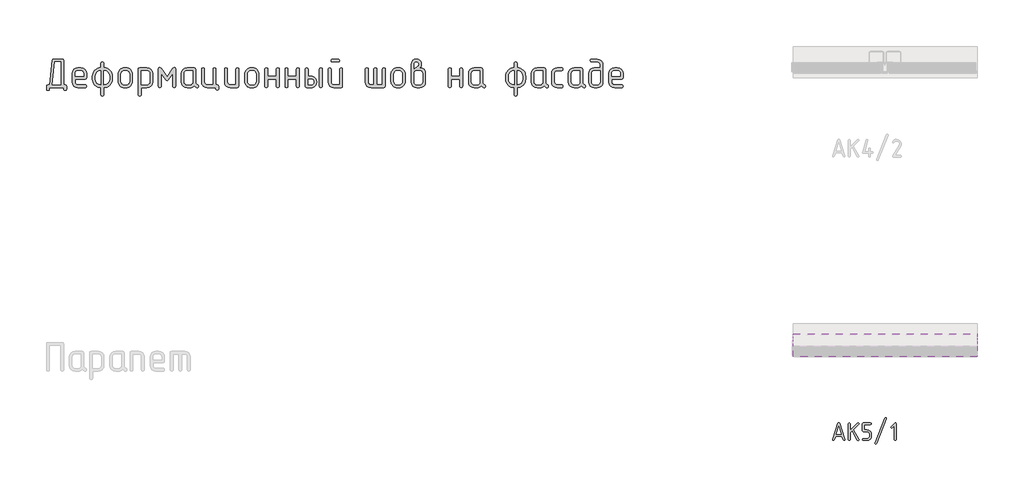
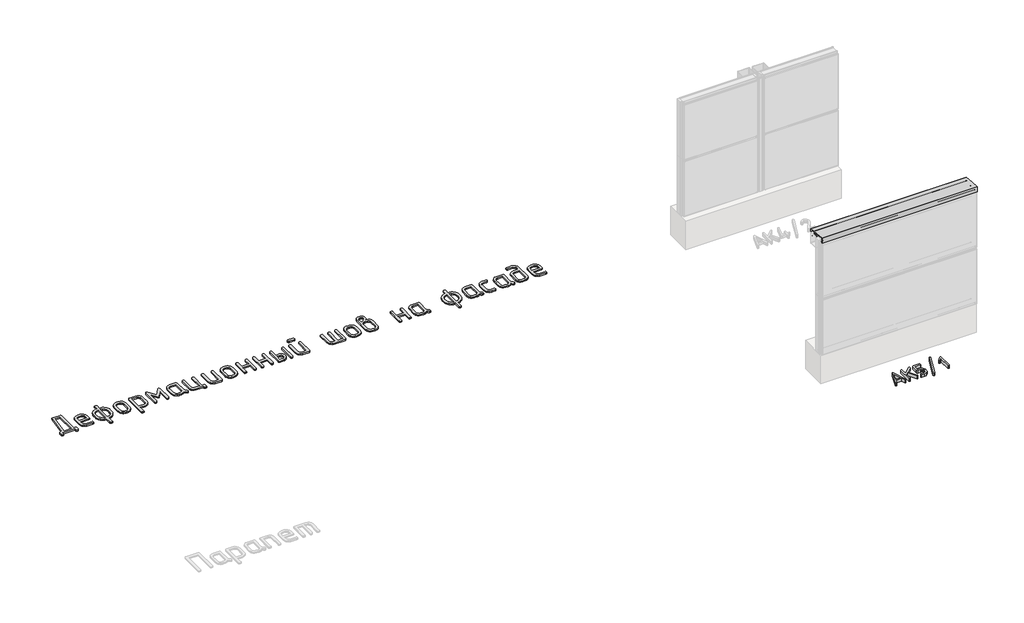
# One storey, part 11 of 37: 3 proxies.
"""IFC4 building model written with IfcOpenShell, lengths in millimetres."""

from ifc_helpers import new_model, si_unit, origin, origin_with_axes, place, context, project, spatial, polyline, outline, extrude, transform, mapped, element, save
from components import generic_models_6f136ce7

model = new_model("IFC4")

# Units and contexts
model_context = context("Model", 3, world=origin())
ifc_project = project(units=[si_unit("LENGTHUNIT", "METRE", prefix="MILLI")], contexts=[model_context])

# Site, building, storey
site = spatial("IfcSite", under=ifc_project)
building = spatial("IfcBuilding", under=site)
storey = spatial("IfcBuildingStorey", under=building, Name="Этаж 01", Elevation=0.0)

# Proxies
placement = place(None, origin())
element("IfcBuildingElementProxy", 1, Name="250 мм ГОСТ 2.304", ObjectType="250 мм ГОСТ 2.304", at=placement, inside=storey, context=model_context, shape_type="SweptSolid", body=[
    extrude(outline(polyline([(46420.8154984, -30426.1300608), (46402.9821438, -30480.0681368), (46398.7740979, -30486.3567408), (46391.2809603, -30488.4529422), (46382.5207159, -30485.1678505), (46378.5160328, -30476.8143318), (46379.6423499, -30472.0587706), (46454.3547197, -30247.9216611), (46459.2667139, -30239.9905113), (46465.9933301, -30237.3467947), (46473.0953853, -30239.9905113), (46477.6319404, -30247.9216611), (46552.7197493, -30472.0587706), (46553.4706274, -30476.8143318), (46549.4659443, -30485.1678505), (46540.7056999, -30488.4529422), (46535.2618338, -30487.7646372), (46529.0670895, -30480.0681368), (46511.1711617, -30426.1300608), (46420.8154984, -30426.1300608)]), holes=[polyline([(46502.7863564, -30400.9756448), (46465.9933301, -30290.9720048), (46429.2003037, -30400.9756448), (46502.7863564, -30400.9756448)])]), origin_with_axes(), (0.0, 0.0, 1.0), 50.0),
    extrude(outline(polyline([(46626.4935215, -30347.4130078), (46731.0532954, -30243.5415389), (46739.8135397, -30239.5368558), (46748.7615036, -30243.385106), (46752.5784672, -30252.3017833), (46748.5737841, -30261.0620276), (46674.6122924, -30335.0235194), (46750.7638452, -30470.2441485), (46752.5784672, -30476.8143318), (46748.5737841, -30485.7310091), (46739.4381007, -30489.2038202), (46733.3528595, -30487.4674147), (46728.8632343, -30482.2581979), (46656.0280597, -30352.1685691), (46626.4935215, -30381.3276682), (46626.4935215, -30476.4388927), (46623.0207104, -30485.7310091), (46614.1040331, -30488.8283812), (46605.1560692, -30485.5432896), (46601.3391055, -30476.4388927), (46601.3391055, -30252.3017833), (46605.1560692, -30243.1973865), (46614.1040331, -30239.9122948), (46622.6765579, -30243.1973865), (46626.4935215, -30252.3017833), (46626.4935215, -30347.4130078)])), origin_with_axes(), (0.0, 0.0, 1.0), 50.0),
    extrude(outline(polyline([(46826.7276785, -30264.6912717), (46826.7276785, -30339.4036416), (46863.8961439, -30339.4036416), (46887.8382046, -30343.9636616), (46907.978945, -30357.6437218), (46921.6590052, -30377.7844622), (46926.2190252, -30401.7265229), (46926.2190252, -30426.5054998), (46921.6590052, -30450.4866688), (46907.978945, -30470.6195875), (46887.8382046, -30484.2761828), (46863.8961439, -30488.8283812), (46814.33819, -30488.8283812), (46805.0460737, -30485.1991371), (46801.5732625, -30476.4388927), (46804.8583542, -30467.6786484), (46814.33819, -30464.0494043), (46863.8961439, -30464.0494043), (46878.4756934, -30461.1397517), (46890.5210294, -30452.9426659), (46898.5303957, -30440.8973299), (46901.4400483, -30426.5054998), (46901.4400483, -30401.7265229), (46898.5303957, -30387.1469734), (46890.5210294, -30375.1016374), (46878.4756934, -30367.0922711), (46863.8961439, -30364.1826185), (46814.33819, -30364.1826185), (46804.7644944, -30361.0852464), (46801.5732625, -30351.79313), (46801.5732625, -30252.3017833), (46804.7644944, -30242.7280877), (46814.33819, -30239.5368558), (46913.8295368, -30239.5368558), (46923.1216531, -30243.1973865), (46926.2190252, -30252.3017833), (46922.9339336, -30260.8743081), (46913.8295368, -30264.6912717), (46826.7276785, -30264.6912717)])), origin_with_axes(), (0.0, 0.0, 1.0), 50.0),
    extrude(outline(polyline([(47139.2181097, -30181.9695356), (47002.1828585, -30530.7524078), (46997.4585839, -30536.571713), (46990.9196872, -30538.7617741), (46981.7840038, -30535.2889629), (46977.7793206, -30526.3722856), (46978.5301987, -30521.6167244), (47115.5654499, -30172.8964254), (47120.2897245, -30167.014547), (47126.8286212, -30164.824486), (47135.9643046, -30168.4850166), (47139.9689878, -30177.2139744), (47139.2181097, -30181.9695356)])), origin_with_axes(), (0.0, 0.0, 1.0), 50.0),
    extrude(outline(polyline([(47276.7539463, -30476.4388927), (47273.2811351, -30485.7310091), (47264.3644578, -30488.8283812), (47255.791933, -30485.5432896), (47251.9749693, -30476.4388927), (47251.9749693, -30282.2117605), (47223.1913093, -30310.6199815), (47214.806504, -30314.6246646), (47205.8585401, -30310.807701), (47202.0415764, -30301.8597371), (47206.0462596, -30293.1620659), (47255.6042134, -30243.5415389), (47266.5545189, -30238.0976728), (47273.8442937, -30241.7582035), (47276.7539463, -30252.3017833), (47276.7539463, -30476.4388927)])), origin_with_axes(), (0.0, 0.0, 1.0), 50.0),
])
element("IfcBuildingElementProxy", 2, Name="400 мм ГОСТ 2.304", ObjectType="400 мм ГОСТ 2.304", at=placement, inside=storey, context=model_context, shape_type="SweptSolid", body=[
    extrude(outline(polyline([(35330.8596141, -25470.0888241), (35369.1834306, -25125.5789489), (35375.048289, -25111.8521465), (35389.2048439, -25107.2765458), (35509.9400336, -25107.2765458), (35518.6994019, -25108.5658034), (35524.9560936, -25112.4335765), (35529.9614469, -25127.9046686), (35529.9614469, -25470.0888241), (35550.5895698, -25470.0888241), (35565.6056298, -25475.0941775), (35570.6109831, -25490.1102375), (35570.6109831, -25530.1530642), (35569.2079674, -25538.9124325), (35564.9989203, -25545.1691242), (35550.5895698, -25550.1744776), (35536.1296601, -25545.1691242), (35531.5035002, -25538.9124325), (35529.9614469, -25530.1530642), (35529.9614469, -25510.1316508), (35329.1406039, -25510.1316508), (35329.1406039, -25530.1530642), (35327.7375882, -25538.9124325), (35323.528541, -25545.1691242), (35309.1191905, -25550.1744776), (35294.6592809, -25545.1691242), (35290.033121, -25538.9124325), (35288.4910677, -25530.1530642), (35288.4910677, -25490.1102375), (35289.7803253, -25481.3508691), (35293.6480984, -25475.0941775), (35309.1191905, -25470.0888241), (35330.8596141, -25470.0888241)]), holes=[polyline([(35489.9186202, -25470.0888241), (35489.9186202, -25147.926082), (35407.4061288, -25147.926082), (35370.9024408, -25470.0888241), (35489.9186202, -25470.0888241)])]), origin_with_axes(), (0.0, 0.0, 1.0), 20.0),
    extrude(outline(polyline([(35691.5484092, -25389.3964612), (35691.5484092, -25429.4392879), (35694.4176396, -25445.201095), (35703.0253305, -25458.3085481), (35715.9052675, -25467.1437551), (35731.591236, -25470.0888241), (35832.3050122, -25470.0888241), (35841.0643806, -25471.4918398), (35847.3210722, -25475.700887), (35852.3264256, -25490.1102375), (35847.0177175, -25503.9634376), (35840.6851871, -25508.5895975), (35832.3050122, -25510.1316508), (35731.591236, -25510.1316508), (35700.5226539, -25504.3931902), (35674.4594251, -25487.1778083), (35664.1516836, -25474.7339437), (35656.7890111, -25460.9629021), (35650.898873, -25429.4392879), (35650.898873, -25308.7040983), (35656.7890111, -25277.7871936), (35664.1516836, -25264.3195068), (35674.4594251, -25252.178997), (35700.5226539, -25234.5085829), (35731.591236, -25228.6184449), (35771.6340627, -25228.6184449), (35803.0059995, -25234.3569055), (35828.7658735, -25251.5722875), (35846.4362876, -25277.6355162), (35852.3264256, -25308.7040983), (35852.3264256, -25369.3750479), (35847.3210722, -25384.3911079), (35832.3050122, -25389.3964612), (35691.5484092, -25389.3964612)]), holes=[polyline([(35691.5484092, -25349.3536345), (35812.2835989, -25349.3536345), (35812.2835989, -25308.7040983), (35809.3385299, -25293.3973233), (35800.5033228, -25280.4415476), (35787.3958698, -25271.6063406), (35771.6340627, -25268.6612716), (35731.591236, -25268.6612716), (35715.9052675, -25271.6063406), (35703.0253305, -25280.4415476), (35694.4176396, -25293.3973233), (35691.5484092, -25308.7040983), (35691.5484092, -25349.3536345)])]), origin_with_axes(), (0.0, 0.0, 1.0), 20.0),
    extrude(outline(polyline([(36097.0325888, -25228.6184449), (36121.3641675, -25230.7924872), (36143.6986608, -25237.3146143), (36164.0360687, -25248.1848261), (36182.3763912, -25263.4031226), (36197.8601231, -25281.7813644), (36208.9199316, -25302.2325304), (36215.5558167, -25324.7566204), (36217.7677784, -25349.3536345), (36217.7677784, -25389.3964612), (36215.5589767, -25413.5036838), (36208.9325714, -25435.7718183), (36197.8885626, -25456.2008646), (36182.4269503, -25474.7908227), (36163.8369922, -25490.252435), (36143.4079459, -25501.2964438), (36121.1398114, -25507.9228491), (36097.0325888, -25510.1316508), (36097.0325888, -25610.8454271), (36095.6295731, -25619.6047955), (36091.420526, -25625.8614871), (36077.0111754, -25630.8668405), (36062.5512658, -25625.5581324), (36057.9251059, -25619.225602), (36056.3830526, -25610.8454271), (36056.3830526, -25510.1316508), (36032.27583, -25507.9228491), (36010.0076955, -25501.2964438), (35989.5786492, -25490.252435), (35970.9886911, -25474.7908227), (35955.5270788, -25456.2008646), (35944.48307, -25435.7718183), (35937.8566647, -25413.5036838), (35935.647863, -25389.3964612), (35935.647863, -25349.3536345), (35937.8535048, -25325.0220558), (35944.4704302, -25302.6875625), (35955.4986393, -25282.3501546), (35970.938132, -25264.0098321), (35989.5502097, -25248.5261002), (36009.9950557, -25237.4662917), (36032.27267, -25230.8304066), (36056.3830526, -25228.6184449), (36056.3830526, -25167.9474953), (36057.8492672, -25159.5673204), (36062.2479111, -25153.2347901), (36077.0111754, -25147.926082), (36090.8643756, -25153.2347901), (36095.4905355, -25159.5673204), (36097.0325888, -25167.9474953), (36097.0325888, -25228.6184449)]), holes=[polyline([(36097.0325888, -25268.6612716), (36097.0325888, -25470.0888241), (36127.9494935, -25464.1986861), (36141.4171803, -25456.8360136), (36153.5576901, -25446.5282721), (36171.2281042, -25420.4650433), (36177.1182422, -25389.3964612), (36177.1182422, -25349.3536345), (36171.2281042, -25318.2850524), (36153.5576901, -25292.2218237), (36127.6461388, -25274.5514096), (36097.0325888, -25268.6612716)]), polyline([(36056.3830526, -25470.0888241), (36056.3830526, -25268.6612716), (36025.7695026, -25274.5514096), (35999.8579513, -25292.2218237), (35982.1875372, -25318.2850524), (35976.2973992, -25349.3536345), (35976.2973992, -25389.3964612), (35982.1875372, -25420.4650433), (35999.8579513, -25446.5282721), (36025.7695026, -25464.1986861), (36056.3830526, -25470.0888241)])]), origin_with_axes(), (0.0, 0.0, 1.0), 20.0),
    extrude(outline(polyline([(36499.4832209, -25421.754301), (36497.8653289, -25439.6143118), (36493.0116529, -25456.0839466), (36484.922193, -25471.1632055), (36473.5969491, -25484.8520885), (36460.1735015, -25495.911897), (36445.2838393, -25503.8117603), (36428.9279625, -25508.5516782), (36411.105871, -25510.1316508), (36386.9386095, -25510.1316508), (36369.1228379, -25508.5516782), (36352.6848025, -25503.8117603), (36337.6245033, -25495.911897), (36323.9419402, -25484.8520885), (36312.6166962, -25471.1632055), (36304.5272363, -25456.0839466), (36299.6735603, -25439.6143118), (36298.0556683, -25421.754301), (36298.0556683, -25316.9957947), (36299.6735603, -25299.4012194), (36304.5272363, -25283.1211812), (36312.6166962, -25268.1556803), (36323.9419402, -25254.5047167), (36338.041616, -25243.1794728), (36353.2409529, -25235.0900128), (36369.5399507, -25230.2363369), (36386.9386095, -25228.6184449), (36411.105871, -25228.6184449), (36428.6972865, -25230.2394968), (36444.9678448, -25235.1026526), (36459.9175459, -25243.2079123), (36473.54639, -25254.5552758), (36484.8937535, -25268.1841199), (36492.9990132, -25283.133821), (36497.862169, -25299.4043793), (36499.4832209, -25316.9957947), (36499.4832209, -25421.754301)]), holes=[polyline([(36459.4403942, -25421.754301), (36459.4403942, -25316.9957947), (36455.9012555, -25298.440596), (36445.2838393, -25282.8178265), (36429.6610698, -25272.2004103), (36411.105871, -25268.6612716), (36386.9386095, -25268.6612716), (36368.3960505, -25272.2004103), (36352.8112003, -25282.8178265), (36342.2317035, -25298.440596), (36338.7052046, -25316.9957947), (36338.7052046, -25421.754301), (36342.2317035, -25440.3094997), (36352.8112003, -25455.9322692), (36368.3960505, -25466.5496854), (36386.9386095, -25470.0888241), (36411.105871, -25470.0888241), (36429.6610698, -25466.5496854), (36445.2838393, -25455.9322692), (36455.9012555, -25440.3094997), (36459.4403942, -25421.754301)])]), origin_with_axes(), (0.0, 0.0, 1.0), 20.0),
    extrude(outline(polyline([(36623.4541945, -25510.1316508), (36623.4541945, -25610.8454271), (36622.0511788, -25619.6047955), (36617.8421317, -25625.8614871), (36603.4327811, -25630.8668405), (36588.9728715, -25625.5581324), (36584.3467116, -25619.225602), (36582.8046583, -25610.8454271), (36582.8046583, -25248.6398582), (36584.093916, -25239.8804899), (36587.961689, -25233.6237982), (36603.4327811, -25228.6184449), (36703.5398479, -25228.6184449), (36734.9117847, -25234.3569055), (36760.6716587, -25251.5722875), (36778.3420728, -25277.6355162), (36784.2322108, -25308.7040983), (36784.2322108, -25429.4392879), (36778.3420728, -25460.9629021), (36770.9794003, -25474.7339437), (36760.6716587, -25487.1778083), (36734.9117847, -25504.3931902), (36703.5398479, -25510.1316508), (36623.4541945, -25510.1316508)]), holes=[polyline([(36623.4541945, -25470.0888241), (36703.5398479, -25470.0888241), (36719.301655, -25467.1437551), (36732.4091081, -25458.3085481), (36741.2443151, -25445.201095), (36744.1893841, -25429.4392879), (36744.1893841, -25308.7040983), (36741.2443151, -25293.3973233), (36732.4091081, -25280.4415476), (36719.301655, -25271.6063406), (36703.5398479, -25268.6612716), (36623.4541945, -25268.6612716), (36623.4541945, -25470.0888241)])]), origin_with_axes(), (0.0, 0.0, 1.0), 20.0),
    extrude(outline(polyline([(37109.0240275, -25490.1102375), (37107.5451731, -25498.4904124), (37103.1086099, -25504.8229428), (37089.0026141, -25510.1316508), (37074.5427045, -25505.1262975), (37070.3715767, -25498.8696058), (37068.9812008, -25490.1102375), (37068.9812008, -25311.029818), (37004.7711125, -25401.2272964), (36996.5046956, -25409.1145198), (36988.2888378, -25411.7435943), (36979.7696253, -25409.1145198), (36971.8065632, -25401.2272964), (36908.2031844, -25311.029818), (36908.2031844, -25490.1102375), (36906.6611311, -25498.4904124), (36902.0349712, -25504.8229428), (36888.1817711, -25510.1316508), (36873.1657111, -25505.1262975), (36868.9566639, -25498.8696058), (36867.5536482, -25490.1102375), (36867.5536482, -25248.6398582), (36872.5590016, -25231.2475194), (36878.2342633, -25226.6213595), (36885.2493418, -25225.0793062), (36895.6645215, -25228.037015), (36904.6640457, -25236.9101413), (36988.2888378, -25354.6117835), (37072.5203395, -25236.9101413), (37081.6209819, -25228.037015), (37091.3283339, -25225.0793062), (37098.3434124, -25226.6213595), (37104.0186741, -25231.2475194), (37109.0240275, -25248.6398582), (37109.0240275, -25490.1102375)])), origin_with_axes(), (0.0, 0.0, 1.0), 20.0),
    extrude(outline(polyline([(37371.9314756, -25483.6386695), (37359.9995222, -25494.2813653), (37345.4384943, -25502.7500186), (37329.107897, -25508.2862428), (37311.8672355, -25510.1316508), (37271.8244088, -25510.1316508), (37240.7558267, -25504.3931902), (37214.692598, -25487.1778083), (37204.3848564, -25474.7339437), (37197.0221839, -25460.9629021), (37191.1320459, -25429.4392879), (37191.1320459, -25308.7040983), (37197.0221839, -25278.0905483), (37214.692598, -25252.178997), (37240.7558267, -25234.5085829), (37271.8244088, -25228.6184449), (37372.5381851, -25228.6184449), (37387.5542451, -25233.6237982), (37392.5595984, -25248.6398582), (37392.5595984, -25429.4392879), (37394.4682054, -25442.4709023), (37400.1940262, -25454.4660546), (37409.0292333, -25464.5399602), (37420.2659987, -25471.8078344), (37429.9733506, -25478.9113914), (37433.2091346, -25489.503528), (37427.5970718, -25504.2667924), (37421.1887027, -25509.1204684), (37413.1877213, -25510.7383603), (37404.8960248, -25508.4126406), (37386.3408261, -25497.7699449), (37371.9314756, -25483.6386695)]), holes=[polyline([(37352.5167717, -25429.4392879), (37352.5167717, -25268.6612716), (37271.8244088, -25268.6612716), (37256.1384404, -25271.6063406), (37243.2585034, -25280.4415476), (37234.6508124, -25293.3973233), (37231.7815821, -25308.7040983), (37231.7815821, -25429.4392879), (37234.6508124, -25445.201095), (37243.2585034, -25458.3085481), (37256.1384404, -25467.1437551), (37271.8244088, -25470.0888241), (37311.8672355, -25470.0888241), (37327.6290426, -25467.1437551), (37340.7364957, -25458.3085481), (37349.5717027, -25445.201095), (37352.5167717, -25429.4392879)])]), origin_with_axes(), (0.0, 0.0, 1.0), 20.0),
    extrude(outline(polyline([(37637.2657616, -25470.0888241), (37637.2657616, -25248.6398582), (37638.7319763, -25240.2596833), (37643.1306201, -25233.927153), (37657.287175, -25228.6184449), (37671.3931708, -25233.6237982), (37675.829734, -25239.8804899), (37677.3085884, -25248.6398582), (37677.3085884, -25470.0888241), (37697.3300017, -25470.0888241), (37712.3460617, -25475.0941775), (37717.3514151, -25490.1102375), (37717.3514151, -25526.007216), (37715.9483994, -25534.842423), (37711.7393522, -25541.3266307), (37697.3300017, -25546.6353388), (37683.4768016, -25541.3266307), (37678.8506417, -25534.842423), (37677.3085884, -25526.007216), (37677.3085884, -25510.1316508), (37556.5733987, -25510.1316508), (37525.5048166, -25504.3931902), (37499.4415879, -25487.1778083), (37489.1338464, -25474.7339437), (37481.7711738, -25460.9629021), (37475.8810358, -25429.4392879), (37475.8810358, -25248.6398582), (37477.3598902, -25240.2596833), (37481.7964534, -25233.927153), (37496.5091587, -25228.6184449), (37510.3623588, -25233.6237982), (37514.9885187, -25239.8804899), (37516.530572, -25248.6398582), (37516.530572, -25429.4392879), (37519.3998023, -25445.201095), (37528.0074933, -25458.3085481), (37540.8874303, -25467.1437551), (37556.5733987, -25470.0888241), (37637.2657616, -25470.0888241)])), origin_with_axes(), (0.0, 0.0, 1.0), 20.0),
    extrude(outline(polyline([(38000.886986, -25490.1102375), (37995.8816327, -25505.1262975), (37980.8655727, -25510.1316508), (37880.1517964, -25510.1316508), (37849.0832143, -25504.3931902), (37823.0199856, -25487.1778083), (37812.712244, -25474.7339437), (37805.3495715, -25460.9629021), (37799.4594335, -25429.4392879), (37799.4594335, -25248.6398582), (37800.9382879, -25240.2596833), (37805.3748511, -25233.927153), (37820.0875563, -25228.6184449), (37833.9407565, -25233.6237982), (37838.5669164, -25239.8804899), (37840.1089697, -25248.6398582), (37840.1089697, -25429.4392879), (37842.9782, -25445.201095), (37851.585891, -25458.3085481), (37864.465828, -25467.1437551), (37880.1517964, -25470.0888241), (37960.8441593, -25470.0888241), (37960.8441593, -25248.6398582), (37962.3103739, -25240.2596833), (37966.7090178, -25233.927153), (37980.8655727, -25228.6184449), (37994.9715684, -25233.6237982), (37999.4081316, -25239.8804899), (38000.886986, -25248.6398582), (38000.886986, -25490.1102375)])), origin_with_axes(), (0.0, 0.0, 1.0), 20.0),
    extrude(outline(polyline([(38285.635976, -25421.754301), (38284.018084, -25439.6143118), (38279.164408, -25456.0839466), (38271.0749481, -25471.1632055), (38259.7497041, -25484.8520885), (38246.3262565, -25495.911897), (38231.4365943, -25503.8117603), (38215.0807175, -25508.5516782), (38197.2586261, -25510.1316508), (38173.0913645, -25510.1316508), (38155.275593, -25508.5516782), (38138.8375576, -25503.8117603), (38123.7772583, -25495.911897), (38110.0946952, -25484.8520885), (38098.7694513, -25471.1632055), (38090.6799914, -25456.0839466), (38085.8263154, -25439.6143118), (38084.2084234, -25421.754301), (38084.2084234, -25316.9957947), (38085.8263154, -25299.4012194), (38090.6799914, -25283.1211812), (38098.7694513, -25268.1556803), (38110.0946952, -25254.5047167), (38124.1943711, -25243.1794728), (38139.3937079, -25235.0900128), (38155.6927058, -25230.2363369), (38173.0913645, -25228.6184449), (38197.2586261, -25228.6184449), (38214.8500415, -25230.2394968), (38231.1205998, -25235.1026526), (38246.070301, -25243.2079123), (38259.699145, -25254.5552758), (38271.0465085, -25268.1841199), (38279.1517682, -25283.133821), (38284.014924, -25299.4043793), (38285.635976, -25316.9957947), (38285.635976, -25421.754301)]), holes=[polyline([(38245.5931492, -25421.754301), (38245.5931492, -25316.9957947), (38242.0540105, -25298.440596), (38231.4365943, -25282.8178265), (38215.8138248, -25272.2004103), (38197.2586261, -25268.6612716), (38173.0913645, -25268.6612716), (38154.5488056, -25272.2004103), (38138.9639554, -25282.8178265), (38128.3844586, -25298.440596), (38124.8579596, -25316.9957947), (38124.8579596, -25421.754301), (38128.3844586, -25440.3094997), (38138.9639554, -25455.9322692), (38154.5488056, -25466.5496854), (38173.0913645, -25470.0888241), (38197.2586261, -25470.0888241), (38215.8138248, -25466.5496854), (38231.4365943, -25455.9322692), (38242.0540105, -25440.3094997), (38245.5931492, -25421.754301)])]), origin_with_axes(), (0.0, 0.0, 1.0), 20.0),
    extrude(outline(polyline([(38530.3421392, -25349.3536345), (38530.3421392, -25248.6398582), (38531.8083538, -25240.2596833), (38536.2069976, -25233.927153), (38550.3635525, -25228.6184449), (38564.4695483, -25233.6237982), (38568.9061115, -25239.8804899), (38570.3849659, -25248.6398582), (38570.3849659, -25490.1102375), (38568.9819502, -25498.8696058), (38564.7729031, -25505.1262975), (38550.3635525, -25510.1316508), (38536.2069976, -25504.8229428), (38531.8083538, -25498.4904124), (38530.3421392, -25490.1102375), (38530.3421392, -25389.3964612), (38409.6069496, -25389.3964612), (38409.6069496, -25490.1102375), (38408.2039338, -25498.8696058), (38403.9948867, -25505.1262975), (38389.5855362, -25510.1316508), (38375.1256266, -25504.8229428), (38370.4994666, -25498.4904124), (38368.9574133, -25490.1102375), (38368.9574133, -25248.6398582), (38370.4362677, -25240.2596833), (38374.8728309, -25233.927153), (38389.5855362, -25228.6184449), (38403.4387363, -25233.6237982), (38408.0648963, -25239.8804899), (38409.6069496, -25248.6398582), (38409.6069496, -25349.3536345), (38530.3421392, -25349.3536345)])), origin_with_axes(), (0.0, 0.0, 1.0), 20.0),
    extrude(outline(polyline([(38815.0911291, -25349.3536345), (38815.0911291, -25248.6398582), (38816.5573437, -25240.2596833), (38820.9559876, -25233.927153), (38835.1125425, -25228.6184449), (38849.2185382, -25233.6237982), (38853.6551014, -25239.8804899), (38855.1339558, -25248.6398582), (38855.1339558, -25490.1102375), (38853.7309401, -25498.8696058), (38849.521893, -25505.1262975), (38835.1125425, -25510.1316508), (38820.9559876, -25504.8229428), (38816.5573437, -25498.4904124), (38815.0911291, -25490.1102375), (38815.0911291, -25389.3964612), (38694.3559395, -25389.3964612), (38694.3559395, -25490.1102375), (38692.9529238, -25498.8696058), (38688.7438767, -25505.1262975), (38674.3345261, -25510.1316508), (38659.8746165, -25504.8229428), (38655.2484566, -25498.4904124), (38653.7064033, -25490.1102375), (38653.7064033, -25248.6398582), (38655.1852577, -25240.2596833), (38659.6218209, -25233.927153), (38674.3345261, -25228.6184449), (38688.1877263, -25233.6237982), (38692.8138862, -25239.8804899), (38694.3559395, -25248.6398582), (38694.3559395, -25349.3536345), (38815.0911291, -25349.3536345)])), origin_with_axes(), (0.0, 0.0, 1.0), 20.0),
    extrude(outline(polyline([(39179.9257725, -25490.1102375), (39178.5227568, -25498.8696058), (39174.3137096, -25505.1262975), (39159.9043591, -25510.1316508), (39146.051159, -25504.8229428), (39141.4249991, -25498.4904124), (39139.8829458, -25490.1102375), (39139.8829458, -25248.6398582), (39141.3491604, -25240.2596833), (39145.7478042, -25233.927153), (39159.9043591, -25228.6184449), (39174.0103549, -25233.6237982), (39178.4469181, -25239.8804899), (39179.9257725, -25248.6398582), (39179.9257725, -25490.1102375)])), origin_with_axes(), (0.0, 0.0, 1.0), 20.0),
    extrude(outline(polyline([(38979.1049294, -25349.3536345), (39019.1477561, -25349.3536345), (39037.2732023, -25350.9020077), (39053.4268426, -25355.5471273), (39067.6086771, -25363.2889932), (39079.8187057, -25374.1276056), (39094.8347657, -25398.825738), (39099.8401191, -25429.4392879), (39094.8347657, -25460.0781175), (39079.8187057, -25484.8520885), (39067.8361932, -25495.911897), (39053.7301974, -25503.8117603), (39037.5007184, -25508.5516782), (39019.1477561, -25510.1316508), (38959.0835161, -25510.1316508), (38943.6124239, -25505.1262975), (38939.7446509, -25498.8696058), (38938.4553932, -25490.1102375), (38938.4553932, -25248.6398582), (38939.9342476, -25240.2596833), (38944.3708108, -25233.927153), (38959.0835161, -25228.6184449), (38972.9367162, -25233.6237982), (38977.5628761, -25239.8804899), (38979.1049294, -25248.6398582), (38979.1049294, -25349.3536345)]), holes=[polyline([(38979.1049294, -25389.3964612), (38979.1049294, -25470.0888241), (39019.1477561, -25470.0888241), (39035.908106, -25467.0679164), (39048.5731667, -25458.0051933), (39056.5362288, -25444.8219016), (39059.1905828, -25429.4392879), (39056.8395836, -25414.2715505), (39049.7865857, -25401.7328876), (39036.8181702, -25392.4805678), (39019.1477561, -25389.3964612), (38979.1049294, -25389.3964612)])]), origin_with_axes(), (0.0, 0.0, 1.0), 20.0),
    extrude(outline(polyline([(39403.3971034, -25147.926082), (39322.7047404, -25147.926082), (39314.3245655, -25146.4598674), (39307.9920352, -25142.0612235), (39302.6833271, -25127.9046686), (39307.6886804, -25113.4953181), (39313.9453721, -25108.8312388), (39322.7047404, -25107.2765458), (39403.3971034, -25107.2765458), (39412.1564717, -25108.7554002), (39418.4131634, -25113.1919633), (39423.4185167, -25127.9046686), (39418.1098086, -25141.7578688), (39411.7772783, -25146.3840287), (39403.3971034, -25147.926082)])), origin_with_axes(), (0.0, 0.0, 1.0), 20.0),
    extrude(outline(polyline([(39463.4613434, -25490.1102375), (39458.4559901, -25505.1262975), (39443.4399301, -25510.1316508), (39342.7261538, -25510.1316508), (39311.6575717, -25504.3931902), (39285.594343, -25487.1778083), (39275.2866014, -25474.7339437), (39267.9239289, -25460.9629021), (39262.0337909, -25429.4392879), (39262.0337909, -25248.6398582), (39263.5126453, -25240.2596833), (39267.9492085, -25233.927153), (39282.6619137, -25228.6184449), (39296.5151139, -25233.6237982), (39301.1412738, -25239.8804899), (39302.6833271, -25248.6398582), (39302.6833271, -25429.4392879), (39305.5525574, -25445.201095), (39314.1602484, -25458.3085481), (39327.0401854, -25467.1437551), (39342.7261538, -25470.0888241), (39423.4185167, -25470.0888241), (39423.4185167, -25248.6398582), (39424.8847313, -25240.2596833), (39429.2833752, -25233.927153), (39443.4399301, -25228.6184449), (39457.5459258, -25233.6237982), (39461.982489, -25239.8804899), (39463.4613434, -25248.6398582), (39463.4613434, -25490.1102375)])), origin_with_axes(), (0.0, 0.0, 1.0), 20.0),
    extrude(outline(polyline([(39947.6155209, -25470.0888241), (40027.7011743, -25470.0888241), (40027.7011743, -25248.6398582), (40029.1673889, -25240.2596833), (40033.5660328, -25233.927153), (40048.3292972, -25228.6184449), (40062.1319382, -25233.6237982), (40066.7960175, -25239.8804899), (40068.3507105, -25248.6398582), (40068.3507105, -25490.1102375), (40063.3453572, -25505.1262975), (40048.3292972, -25510.1316508), (39866.923158, -25510.1316508), (39835.8545759, -25504.3931902), (39809.7913472, -25487.1778083), (39799.4836056, -25474.7339437), (39792.1209331, -25460.9629021), (39786.2307951, -25429.4392879), (39786.2307951, -25248.6398582), (39787.7096495, -25240.2596833), (39792.1462127, -25233.927153), (39806.8589179, -25228.6184449), (39820.7121181, -25233.6237982), (39825.338278, -25239.8804899), (39826.8803313, -25248.6398582), (39826.8803313, -25429.4392879), (39829.7495616, -25445.201095), (39838.3572526, -25458.3085481), (39851.2371896, -25467.1437551), (39866.923158, -25470.0888241), (39906.9659847, -25470.0888241), (39906.9659847, -25248.6398582), (39908.4321993, -25240.2596833), (39912.8308432, -25233.927153), (39927.5941076, -25228.6184449), (39941.4473077, -25233.6237982), (39946.0734676, -25239.8804899), (39947.6155209, -25248.6398582), (39947.6155209, -25470.0888241)])), origin_with_axes(), (0.0, 0.0, 1.0), 20.0),
    extrude(outline(polyline([(40350.066153, -25421.754301), (40348.448261, -25439.6143118), (40343.594585, -25456.0839466), (40335.5051251, -25471.1632055), (40324.1798812, -25484.8520885), (40310.7564336, -25495.911897), (40295.8667714, -25503.8117603), (40279.5108946, -25508.5516782), (40261.6888031, -25510.1316508), (40237.5215416, -25510.1316508), (40219.70577, -25508.5516782), (40203.2677346, -25503.8117603), (40188.2074354, -25495.911897), (40174.5248723, -25484.8520885), (40163.1996284, -25471.1632055), (40155.1101684, -25456.0839466), (40150.2564924, -25439.6143118), (40148.6386005, -25421.754301), (40148.6386005, -25316.9957947), (40150.2564924, -25299.4012194), (40155.1101684, -25283.1211812), (40163.1996284, -25268.1556803), (40174.5248723, -25254.5047167), (40188.6245482, -25243.1794728), (40203.823885, -25235.0900128), (40220.1228828, -25230.2363369), (40237.5215416, -25228.6184449), (40261.6888031, -25228.6184449), (40279.2802186, -25230.2394968), (40295.5507769, -25235.1026526), (40310.500478, -25243.2079123), (40324.1293221, -25254.5552758), (40335.4766856, -25268.1841199), (40343.5819453, -25283.133821), (40348.4451011, -25299.4043793), (40350.066153, -25316.9957947), (40350.066153, -25421.754301)]), holes=[polyline([(40310.0233263, -25421.754301), (40310.0233263, -25316.9957947), (40306.4841876, -25298.440596), (40295.8667714, -25282.8178265), (40280.2440019, -25272.2004103), (40261.6888031, -25268.6612716), (40237.5215416, -25268.6612716), (40218.9789826, -25272.2004103), (40203.3941324, -25282.8178265), (40192.8146356, -25298.440596), (40189.2881367, -25316.9957947), (40189.2881367, -25421.754301), (40192.8146356, -25440.3094997), (40203.3941324, -25455.9322692), (40218.9789826, -25466.5496854), (40237.5215416, -25470.0888241), (40261.6888031, -25470.0888241), (40280.2440019, -25466.5496854), (40295.8667714, -25455.9322692), (40306.4841876, -25440.3094997), (40310.0233263, -25421.754301)])]), origin_with_axes(), (0.0, 0.0, 1.0), 20.0),
    extrude(outline(polyline([(40554.12278, -25229.8318639), (40588.4524256, -25235.5703245), (40602.6216203, -25242.7434003), (40614.7937296, -25252.7857065), (40629.8097896, -25277.0793658), (40634.8151429, -25308.7040983), (40634.8151429, -25429.4392879), (40628.9250049, -25460.9629021), (40621.5623324, -25474.7339437), (40611.2545909, -25487.1778083), (40585.4947169, -25504.3931902), (40554.12278, -25510.1316508), (40514.0799533, -25510.1316508), (40483.0113712, -25504.3931902), (40456.9481425, -25487.1778083), (40446.6404009, -25474.7339437), (40439.2777284, -25460.9629021), (40433.3875904, -25429.4392879), (40433.3875904, -25180.38504), (40439.126051, -25149.5945331), (40446.2991268, -25136.7398756), (40456.341433, -25125.5789489), (40478.865523, -25111.8521465), (40506.3949664, -25107.2765458), (40533.4693776, -25111.8521465), (40555.8417903, -25125.5789489), (40565.6629002, -25136.7019563), (40572.6779788, -25149.4428557), (40578.2900416, -25179.7783305), (40576.8870259, -25196.2985245), (40572.6779788, -25209.4565366), (40565.2331477, -25220.2888291), (40554.12278, -25229.8318639)]), holes=[polyline([(40594.7723162, -25429.4392879), (40594.7723162, -25308.7040983), (40591.8272472, -25293.3973233), (40582.9920402, -25280.4415476), (40569.8845871, -25271.6063406), (40554.12278, -25268.6612716), (40514.0799533, -25268.6612716), (40498.3939849, -25271.6063406), (40485.5140479, -25280.4415476), (40476.9063569, -25293.3973233), (40474.0371266, -25308.7040983), (40474.0371266, -25429.4392879), (40476.9063569, -25445.201095), (40485.5140479, -25458.3085481), (40498.3939849, -25467.1437551), (40514.0799533, -25470.0888241), (40554.12278, -25470.0888241), (40569.8845871, -25467.1437551), (40582.9920402, -25458.3085481), (40591.8272472, -25445.201095), (40594.7723162, -25429.4392879)]), polyline([(40474.0371266, -25242.1682903), (40483.4411238, -25236.6067866), (40490.5194012, -25231.5508741), (40504.0692466, -25221.8435222), (40514.0799533, -25214.46189), (40530.5622279, -25199.7997438), (40536.3259681, -25190.2440693), (40538.2472149, -25180.38504), (40535.8203769, -25166.7972752), (40528.539863, -25156.7739288), (40517.9982855, -25150.5930758), (40505.7882569, -25148.5327915), (40493.7299056, -25150.5930758), (40483.4411238, -25156.7739288), (40476.3881259, -25166.7972752), (40474.0371266, -25180.38504), (40474.0371266, -25242.1682903)])]), origin_with_axes(), (0.0, 0.0, 1.0), 20.0),
    extrude(outline(polyline([(41118.9693204, -25349.3536345), (41118.9693204, -25248.6398582), (41120.435535, -25240.2596833), (41124.8341789, -25233.927153), (41138.9907338, -25228.6184449), (41153.0967296, -25233.6237982), (41157.5332927, -25239.8804899), (41159.0121471, -25248.6398582), (41159.0121471, -25490.1102375), (41157.6091314, -25498.8696058), (41153.4000843, -25505.1262975), (41138.9907338, -25510.1316508), (41124.8341789, -25504.8229428), (41120.435535, -25498.4904124), (41118.9693204, -25490.1102375), (41118.9693204, -25389.3964612), (40998.2341308, -25389.3964612), (40998.2341308, -25490.1102375), (40996.8311151, -25498.8696058), (40992.622068, -25505.1262975), (40978.2127174, -25510.1316508), (40963.7528078, -25504.8229428), (40959.1266479, -25498.4904124), (40957.5845946, -25490.1102375), (40957.5845946, -25248.6398582), (40959.063449, -25240.2596833), (40963.5000122, -25233.927153), (40978.2127174, -25228.6184449), (40992.0659176, -25233.6237982), (40996.6920775, -25239.8804899), (40998.2341308, -25248.6398582), (40998.2341308, -25349.3536345), (41118.9693204, -25349.3536345)])), origin_with_axes(), (0.0, 0.0, 1.0), 20.0),
    extrude(outline(polyline([(41423.1330142, -25483.6386695), (41411.2010608, -25494.2813653), (41396.6400329, -25502.7500186), (41380.3094357, -25508.2862428), (41363.0687742, -25510.1316508), (41323.0259474, -25510.1316508), (41291.9573654, -25504.3931902), (41265.8941366, -25487.1778083), (41255.5863951, -25474.7339437), (41248.2237226, -25460.9629021), (41242.3335845, -25429.4392879), (41242.3335845, -25308.7040983), (41248.2237226, -25278.0905483), (41265.8941366, -25252.178997), (41291.9573654, -25234.5085829), (41323.0259474, -25228.6184449), (41423.7397237, -25228.6184449), (41438.7557837, -25233.6237982), (41443.7611371, -25248.6398582), (41443.7611371, -25429.4392879), (41445.669744, -25442.4709023), (41451.3955649, -25454.4660546), (41460.2307719, -25464.5399602), (41471.4675374, -25471.8078344), (41481.1748893, -25478.9113914), (41484.4106733, -25489.503528), (41478.7986104, -25504.2667924), (41472.3902414, -25509.1204684), (41464.3892599, -25510.7383603), (41456.0975635, -25508.4126406), (41437.5423647, -25497.7699449), (41423.1330142, -25483.6386695)]), holes=[polyline([(41403.7183104, -25429.4392879), (41403.7183104, -25268.6612716), (41323.0259474, -25268.6612716), (41307.339979, -25271.6063406), (41294.460042, -25280.4415476), (41285.8523511, -25293.3973233), (41282.9831207, -25308.7040983), (41282.9831207, -25429.4392879), (41285.8523511, -25445.201095), (41294.460042, -25458.3085481), (41307.339979, -25467.1437551), (41323.0259474, -25470.0888241), (41363.0687742, -25470.0888241), (41378.8305813, -25467.1437551), (41391.9380343, -25458.3085481), (41400.7732414, -25445.201095), (41403.7183104, -25429.4392879)])]), origin_with_axes(), (0.0, 0.0, 1.0), 20.0),
    extrude(outline(polyline([(41927.9153146, -25228.6184449), (41952.2468933, -25230.7924872), (41974.5813866, -25237.3146143), (41994.9187945, -25248.1848261), (42013.2591169, -25263.4031226), (42028.7428489, -25281.7813644), (42039.8026574, -25302.2325304), (42046.4385425, -25324.7566204), (42048.6505042, -25349.3536345), (42048.6505042, -25389.3964612), (42046.4417024, -25413.5036838), (42039.8152972, -25435.7718183), (42028.7712884, -25456.2008646), (42013.3096761, -25474.7908227), (41994.7197179, -25490.252435), (41974.2906716, -25501.2964438), (41952.0225372, -25507.9228491), (41927.9153146, -25510.1316508), (41927.9153146, -25610.8454271), (41926.5122989, -25619.6047955), (41922.3032517, -25625.8614871), (41907.8939012, -25630.8668405), (41893.4339916, -25625.5581324), (41888.8078317, -25619.225602), (41887.2657784, -25610.8454271), (41887.2657784, -25510.1316508), (41863.1585557, -25507.9228491), (41840.8904213, -25501.2964438), (41820.461375, -25490.252435), (41801.8714169, -25474.7908227), (41786.4098046, -25456.2008646), (41775.3657958, -25435.7718183), (41768.7393905, -25413.5036838), (41766.5305887, -25389.3964612), (41766.5305887, -25349.3536345), (41768.7362305, -25325.0220558), (41775.353156, -25302.6875625), (41786.381365, -25282.3501546), (41801.8208577, -25264.0098321), (41820.4329355, -25248.5261002), (41840.8777815, -25237.4662917), (41863.1553958, -25230.8304066), (41887.2657784, -25228.6184449), (41887.2657784, -25167.9474953), (41888.731993, -25159.5673204), (41893.1306368, -25153.2347901), (41907.8939012, -25147.926082), (41921.7471014, -25153.2347901), (41926.3732613, -25159.5673204), (41927.9153146, -25167.9474953), (41927.9153146, -25228.6184449)]), holes=[polyline([(41927.9153146, -25268.6612716), (41927.9153146, -25470.0888241), (41958.8322193, -25464.1986861), (41972.2999061, -25456.8360136), (41984.4404159, -25446.5282721), (42002.11083, -25420.4650433), (42008.000968, -25389.3964612), (42008.000968, -25349.3536345), (42002.11083, -25318.2850524), (41984.4404159, -25292.2218237), (41958.5288645, -25274.5514096), (41927.9153146, -25268.6612716)]), polyline([(41887.2657784, -25470.0888241), (41887.2657784, -25268.6612716), (41856.6522284, -25274.5514096), (41830.740677, -25292.2218237), (41813.070263, -25318.2850524), (41807.1801249, -25349.3536345), (41807.1801249, -25389.3964612), (41813.070263, -25420.4650433), (41830.740677, -25446.5282721), (41856.6522284, -25464.1986861), (41887.2657784, -25470.0888241)])]), origin_with_axes(), (0.0, 0.0, 1.0), 20.0),
    extrude(outline(polyline([(42309.7378238, -25483.6386695), (42297.8058704, -25494.2813653), (42283.2448425, -25502.7500186), (42266.9142452, -25508.2862428), (42249.6735837, -25510.1316508), (42209.630757, -25510.1316508), (42178.5621749, -25504.3931902), (42152.4989462, -25487.1778083), (42142.1912047, -25474.7339437), (42134.8285321, -25460.9629021), (42128.9383941, -25429.4392879), (42128.9383941, -25308.7040983), (42134.8285321, -25278.0905483), (42152.4989462, -25252.178997), (42178.5621749, -25234.5085829), (42209.630757, -25228.6184449), (42310.3445333, -25228.6184449), (42325.3605933, -25233.6237982), (42330.3659467, -25248.6398582), (42330.3659467, -25429.4392879), (42332.2745536, -25442.4709023), (42338.0003745, -25454.4660546), (42346.8355815, -25464.5399602), (42358.072347, -25471.8078344), (42367.7796989, -25478.9113914), (42371.0154829, -25489.503528), (42365.40342, -25504.2667924), (42358.995051, -25509.1204684), (42350.9940695, -25510.7383603), (42342.7023731, -25508.4126406), (42324.1471743, -25497.7699449), (42309.7378238, -25483.6386695)]), holes=[polyline([(42290.3231199, -25429.4392879), (42290.3231199, -25268.6612716), (42209.630757, -25268.6612716), (42193.9447886, -25271.6063406), (42181.0648516, -25280.4415476), (42172.4571606, -25293.3973233), (42169.5879303, -25308.7040983), (42169.5879303, -25429.4392879), (42172.4571606, -25445.201095), (42181.0648516, -25458.3085481), (42193.9447886, -25467.1437551), (42209.630757, -25470.0888241), (42249.6735837, -25470.0888241), (42265.4353908, -25467.1437551), (42278.5428439, -25458.3085481), (42287.3780509, -25445.201095), (42290.3231199, -25429.4392879)])]), origin_with_axes(), (0.0, 0.0, 1.0), 20.0),
    extrude(outline(polyline([(42555.0506965, -25510.1316508), (42494.379747, -25510.1316508), (42463.3111649, -25504.3931902), (42437.2479361, -25487.1778083), (42426.9401946, -25474.7339437), (42419.5775221, -25460.9629021), (42413.687384, -25429.4392879), (42413.687384, -25308.7040983), (42419.5775221, -25278.0905483), (42437.2479361, -25252.178997), (42463.3111649, -25234.5085829), (42494.379747, -25228.6184449), (42555.0506965, -25228.6184449), (42563.8100649, -25230.0214606), (42570.0667565, -25234.2305077), (42575.0721099, -25248.6398582), (42569.7634018, -25262.4930584), (42563.4308714, -25267.1192183), (42555.0506965, -25268.6612716), (42494.379747, -25268.6612716), (42478.6937785, -25271.6063406), (42465.8138415, -25280.4415476), (42457.2061506, -25293.3973233), (42454.3369203, -25308.7040983), (42454.3369203, -25429.4392879), (42457.2061506, -25445.201095), (42465.8138415, -25458.3085481), (42478.6937785, -25467.1437551), (42494.379747, -25470.0888241), (42555.0506965, -25470.0888241), (42563.8100649, -25471.4918398), (42570.0667565, -25475.700887), (42575.0721099, -25490.1102375), (42569.7634018, -25503.9634376), (42563.4308714, -25508.5895975), (42555.0506965, -25510.1316508)])), origin_with_axes(), (0.0, 0.0, 1.0), 20.0),
    extrude(outline(polyline([(42833.934828, -25483.6386695), (42822.0028746, -25494.2813653), (42807.4418467, -25502.7500186), (42791.1112494, -25508.2862428), (42773.8705879, -25510.1316508), (42733.8277612, -25510.1316508), (42702.7591791, -25504.3931902), (42676.6959504, -25487.1778083), (42666.3882089, -25474.7339437), (42659.0255363, -25460.9629021), (42653.1353983, -25429.4392879), (42653.1353983, -25308.7040983), (42659.0255363, -25278.0905483), (42676.6959504, -25252.178997), (42702.7591791, -25234.5085829), (42733.8277612, -25228.6184449), (42834.5415375, -25228.6184449), (42849.5575975, -25233.6237982), (42854.5629509, -25248.6398582), (42854.5629509, -25429.4392879), (42856.4715578, -25442.4709023), (42862.1973787, -25454.4660546), (42871.0325857, -25464.5399602), (42882.2693512, -25471.8078344), (42891.9767031, -25478.9113914), (42895.2124871, -25489.503528), (42889.6004242, -25504.2667924), (42883.1920552, -25509.1204684), (42875.1910737, -25510.7383603), (42866.8993773, -25508.4126406), (42848.3441785, -25497.7699449), (42833.934828, -25483.6386695)]), holes=[polyline([(42814.5201241, -25429.4392879), (42814.5201241, -25268.6612716), (42733.8277612, -25268.6612716), (42718.1417928, -25271.6063406), (42705.2618558, -25280.4415476), (42696.6541648, -25293.3973233), (42693.7849345, -25308.7040983), (42693.7849345, -25429.4392879), (42696.6541648, -25445.201095), (42705.2618558, -25458.3085481), (42718.1417928, -25467.1437551), (42733.8277612, -25470.0888241), (42773.8705879, -25470.0888241), (42789.632395, -25467.1437551), (42802.7398481, -25458.3085481), (42811.5750551, -25445.201095), (42814.5201241, -25429.4392879)])]), origin_with_axes(), (0.0, 0.0, 1.0), 20.0),
    extrude(outline(polyline([(43099.2691141, -25228.6184449), (43099.2691141, -25187.9689087), (43096.3240451, -25172.2829403), (43087.488838, -25159.4030033), (43074.381385, -25150.7953123), (43058.6195779, -25147.926082), (42978.5339245, -25147.926082), (42970.1537495, -25146.4598674), (42963.8212192, -25142.0612235), (42958.5125111, -25127.9046686), (42963.5178644, -25113.4953181), (42969.7745561, -25108.8312388), (42978.5339245, -25107.2765458), (43058.6195779, -25107.2765458), (43089.9915147, -25113.1666838), (43103.5729596, -25120.5293563), (43115.7513887, -25130.8370978), (43133.4218028, -25156.9003266), (43139.3119408, -25187.9689087), (43139.3119408, -25429.4392879), (43133.4218028, -25460.9629021), (43126.0591302, -25474.7339437), (43115.7513887, -25487.1778083), (43089.9915147, -25504.3931902), (43058.6195779, -25510.1316508), (43018.5767512, -25510.1316508), (42987.5081691, -25504.3931902), (42961.4449403, -25487.1778083), (42951.1371988, -25474.7339437), (42943.7745263, -25460.9629021), (42937.8843883, -25429.4392879), (42937.8843883, -25308.7040983), (42943.7745263, -25278.0905483), (42961.4449403, -25252.178997), (42987.5081691, -25234.5085829), (43018.5767512, -25228.6184449), (43099.2691141, -25228.6184449)]), holes=[polyline([(43099.2691141, -25268.6612716), (43018.5767512, -25268.6612716), (43002.8907827, -25271.6063406), (42990.0108457, -25280.4415476), (42981.4031548, -25293.3973233), (42978.5339245, -25308.7040983), (42978.5339245, -25429.4392879), (42981.4031548, -25445.201095), (42990.0108457, -25458.3085481), (43002.8907827, -25467.1437551), (43018.5767512, -25470.0888241), (43058.6195779, -25470.0888241), (43074.381385, -25467.1437551), (43087.488838, -25458.3085481), (43096.3240451, -25445.201095), (43099.2691141, -25429.4392879), (43099.2691141, -25268.6612716)])]), origin_with_axes(), (0.0, 0.0, 1.0), 20.0),
    extrude(outline(polyline([(43263.2829144, -25389.3964612), (43263.2829144, -25429.4392879), (43266.1521447, -25445.201095), (43274.7598357, -25458.3085481), (43287.6397727, -25467.1437551), (43303.3257411, -25470.0888241), (43404.0395174, -25470.0888241), (43412.7988857, -25471.4918398), (43419.0555774, -25475.700887), (43424.0609307, -25490.1102375), (43418.7522226, -25503.9634376), (43412.4196923, -25508.5895975), (43404.0395174, -25510.1316508), (43303.3257411, -25510.1316508), (43272.257159, -25504.3931902), (43246.1939303, -25487.1778083), (43235.8861887, -25474.7339437), (43228.5235162, -25460.9629021), (43222.6333782, -25429.4392879), (43222.6333782, -25308.7040983), (43228.5235162, -25277.7871936), (43235.8861887, -25264.3195068), (43246.1939303, -25252.178997), (43272.257159, -25234.5085829), (43303.3257411, -25228.6184449), (43343.3685678, -25228.6184449), (43374.7405046, -25234.3569055), (43400.5003787, -25251.5722875), (43418.1707927, -25277.6355162), (43424.0609307, -25308.7040983), (43424.0609307, -25369.3750479), (43419.0555774, -25384.3911079), (43404.0395174, -25389.3964612), (43263.2829144, -25389.3964612)]), holes=[polyline([(43263.2829144, -25349.3536345), (43384.018104, -25349.3536345), (43384.018104, -25308.7040983), (43381.073035, -25293.3973233), (43372.237828, -25280.4415476), (43359.1303749, -25271.6063406), (43343.3685678, -25268.6612716), (43303.3257411, -25268.6612716), (43287.6397727, -25271.6063406), (43274.7598357, -25280.4415476), (43266.1521447, -25293.3973233), (43263.2829144, -25308.7040983), (43263.2829144, -25349.3536345)])]), origin_with_axes(), (0.0, 0.0, 1.0), 20.0),
])
generic_models_shape = generic_models_6f136ce7(model_context)
element("IfcBuildingElementProxy", 3, Name="АК5_1 Парапет : АК5_1 Парапет", ObjectType="АК5_1 Парапет : АК5_1 Парапет", at=placement, inside=storey, context=model_context, shape_type="MappedRepresentation", body=[
    mapped(generic_models_shape, transform((45826.1244462, -29159.6750146, 2025.0), x_axis=(1.0, 0.0, 0.0), y_axis=(0.0, 1.0, 0.0), z_axis=(0.0, 0.0, 1.0))),
])

save(model, "model.ifc")
